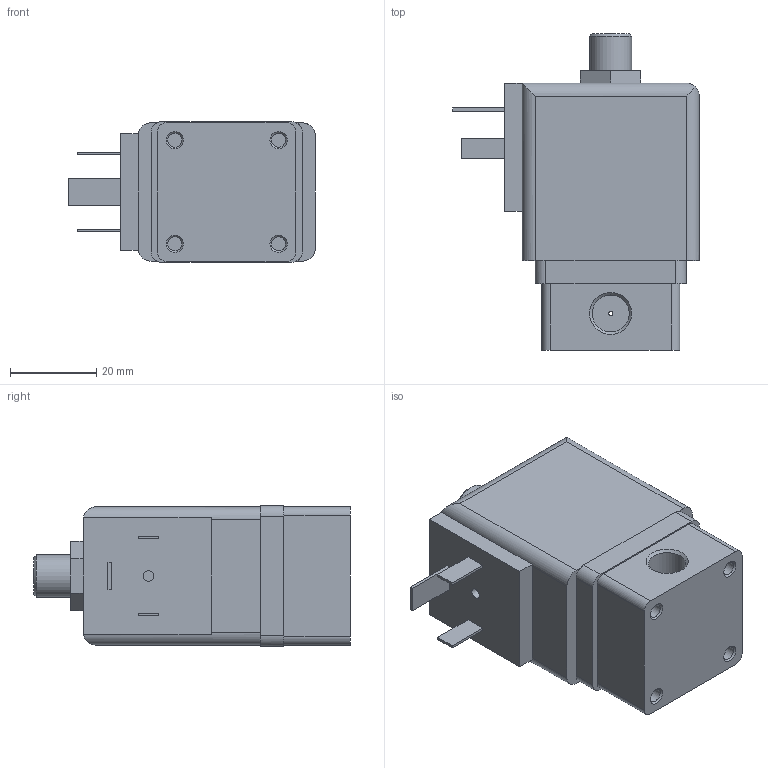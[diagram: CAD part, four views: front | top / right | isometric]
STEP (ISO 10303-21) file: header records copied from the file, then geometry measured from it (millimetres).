
FILE_DESCRIPTION(/* description */ ('STEP AP214'),/* implementation_level */ '2;1');
FILE_NAME(/* name */ '6014-125355-3_2-way_Solenoid_Valve_direct-acting',/* time_stamp */ '2024-08-08T06:49:53+02:00',/* author */ ('License CC BY-ND 4.0'),/* organization */ ('CADENAS'),/* preprocessor_version */ 'ST-DEVELOPER v19.3',/* originating_system */ 'PARTsolutions',/* authorisation */ ' ');
FILE_SCHEMA (('AUTOMOTIVE_DESIGN {1 0 10303 214 3 1 1}'));
Length unit declared in the file: millimetre
Products named in the file (1): 6014-125355-3/2-way Solenoid Valve direct-acting
Bounding box: 57.05 x 73.3 x 32.6 mm (x, y, z)
Volume: 78337.3 mm3; surface area: 13022 mm2
Topology: 1 solids, 1 shells, 86 faces, 199 edges, 128 vertices
Faces by surface type: plane 55, cylinder 24, cone 7
Full cylindrical faces by diameter (mm): 1 x1, 2.46 x1, 3.242 x4, 8.566 x2, 9.728 x1
Entity records: 2971 total; most frequent: DIRECTION 413, CARTESIAN_POINT 396, ORIENTED_EDGE 364, EDGE_CURVE 182, AXIS2_PLACEMENT_3D 144, VERTEX_POINT 127, LINE 125, VECTOR 125
